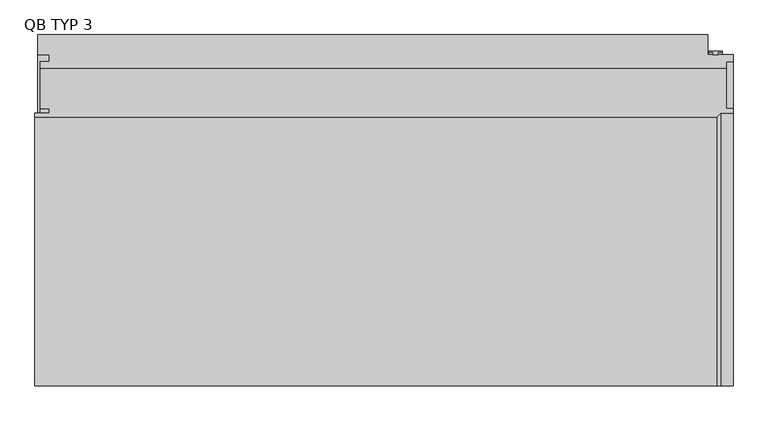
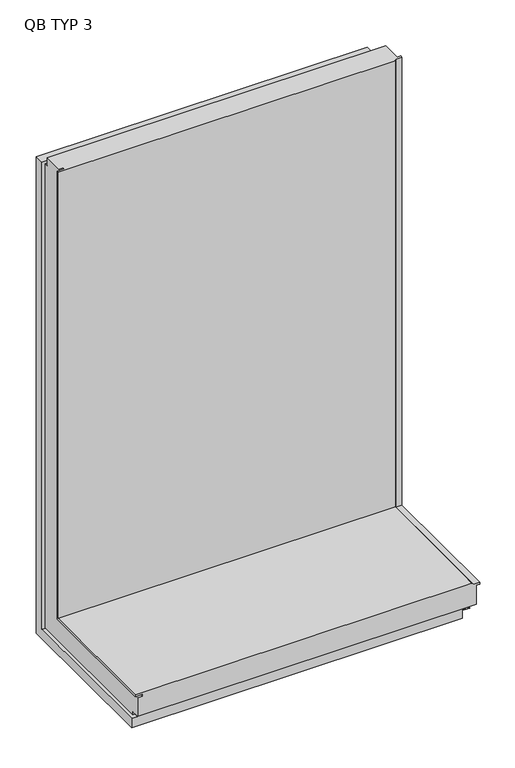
"""IFC4 building model written with IfcOpenShell, lengths in millimetres: plate geometry, TR_C_V_QBISS_Corner_Tr : QB TYP 3."""

from ifc_helpers import new_model, si_unit, origin, place, context, project, spatial, faceted_brep, source, transform, mapped, element, save


def qb_typ_3_0e3169c6(model_context):
    return source(origin(), model_context, "Body", "Brep", [
        faceted_brep([(494.5, -24.0, 1487.3), (474.5, -24.0, 1487.3), (474.5, -25.4998317, 1487.3), (481.3023028, -25.4998317, 1487.3), (481.3023028, -27.9998293, 1487.3), (480.5023028, -27.9998293, 1487.3), (480.5023028, -28.7998428, 1487.3), (488.5023593, -28.7998428, 1487.3), (488.5023593, -27.9998293, 1487.3), (487.7023593, -27.9998293, 1487.3), (487.7023593, -25.4998317, 1487.3), (494.5, -25.4998317, 1487.3), (494.5, -25.4998317, 25.4998317), (494.5, -487.3, 25.4998317), (494.5, -487.3, 24.0), (494.5, -24.0, 24.0), (487.7023593, -25.4998317, 25.4998317), (487.7023593, -27.9998293, 27.9998293), (487.7023593, -487.3, 27.9998293), (487.7023593, -487.3, 25.4998317), (488.5023593, -27.9998293, 27.9998293), (488.5023593, -28.7998428, 28.7998428), (488.5023593, -487.3, 28.7998428), (488.5023593, -487.3, 27.9998293), (480.5023028, -28.7998428, 28.7998428), (480.5023028, -27.9998293, 27.9998293), (480.5023028, -487.3, 27.9998293), (480.5023028, -487.3, 28.7998428), (481.3023028, -27.9998293, 27.9998293), (481.3023028, -25.4998317, 25.4998317), (481.3023028, -487.3, 25.4998317), (481.3023028, -487.3, 27.9998293), (474.5, -25.4998317, 25.4998317), (474.5, -24.0, 24.0), (474.5, -487.3, 24.0), (474.5, -487.3, 25.4998317)], [[[0, 1, 2, 3, 4, 5, 6, 7, 8, 9, 10, 11]], [[0, 11, 12, 13, 14, 15]], [[11, 10, 16, 12]], [[10, 9, 17, 18, 19, 16]], [[9, 8, 20, 17]], [[8, 7, 21, 22, 23, 20]], [[7, 6, 24, 21]], [[6, 5, 25, 26, 27, 24]], [[5, 4, 28, 25]], [[4, 3, 29, 30, 31, 28]], [[3, 2, 32, 29]], [[2, 1, 33, 34, 35, 32]], [[1, 0, 15, 33]], [[14, 13, 19, 18, 23, 22, 27, 26, 31, 30, 35, 34]], [[12, 16, 19, 13]], [[17, 20, 23, 18]], [[21, 24, 27, 22]], [[25, 28, 31, 26]], [[29, 32, 35, 30]], [[33, 15, 14, 34]]]),
        faceted_brep([(500.0, -49.0, 1487.3), (-500.0, -49.0, 1487.3), (-500.0, -49.0, 1512.4), (500.0, -49.0, 1512.4), (500.0, -39.0, 1487.3), (510.0, -39.0, 1487.3), (510.0, -29.0, 1487.3), (473.0, -29.0, 1487.3), (473.0, 0.0, 1487.3), (-504.0, 0.0, 1487.3), (-504.0, -29.0, 1487.3), (-487.0, -29.0, 1487.3), (-487.0, -39.0, 1487.3), (-500.0, -39.0, 1487.3), (-500.0, -108.0, 1512.4), (-487.0, -108.0, 1512.4), (-487.0, -114.0, 1512.4), (-508.0, -114.0, 1512.4), (-508.0, -120.0, 1512.4), (486.0, -120.0, 1512.4), (492.0, -114.0, 1512.4), (510.0, -114.0, 1512.4), (510.0, -108.0, 1512.4), (500.0, -108.0, 1512.4), (510.0, -39.0, 39.0), (510.0, -487.3, 39.0), (510.0, -487.3, 29.0), (510.0, -29.0, 29.0), (473.0, -29.0, 29.0), (473.0, -487.3, 29.0), (473.0, -487.3, 0.0), (473.0, 0.0, 0.0), (-504.0, 0.0, 0.0), (-504.0, -487.3, 0.0), (-504.0, -487.3, 29.0), (-504.0, -29.0, 29.0), (-487.0, -29.0, 29.0), (-487.0, -487.3, 29.0), (-487.0, -487.3, 39.0), (-487.0, -39.0, 39.0), (-500.0, -39.0, 39.0), (-500.0, -512.4, 108.0), (-500.0, -108.0, 108.0), (-500.0, -487.3, 39.0), (-500.0, -487.3, 49.0), (-500.0, -512.4, 49.0), (-487.0, -108.0, 108.0), (-487.0, -512.4, 108.0), (-487.0, -512.4, 114.0), (-487.0, -114.0, 114.0), (-508.0, -114.0, 114.0), (-508.0, -512.4, 114.0), (-508.0, -512.4, 120.0), (-508.0, -120.0, 120.0), (486.0, -120.0, 120.0), (492.0, -114.0, 114.0), (510.0, -114.0, 114.0), (510.0, -512.4, 114.0), (510.0, -512.4, 108.0), (510.0, -108.0, 108.0), (500.0, -108.0, 108.0), (500.0, -512.4, 108.0), (500.0, -512.4, 49.0), (500.0, -487.3, 49.0), (500.0, -487.3, 39.0), (500.0, -39.0, 39.0), (492.0, -512.4, 114.0), (486.0, -512.4, 120.0)], [[[0, 1, 2, 3]], [[1, 0, 4, 5, 6, 7, 8, 9, 10, 11, 12, 13]], [[14, 15, 16, 17, 18, 19, 20, 21, 22, 23, 3, 2]], [[5, 24, 25, 26, 27, 6]], [[27, 28, 7, 6]], [[7, 28, 29, 30, 31, 8]], [[31, 32, 9, 8]], [[9, 32, 33, 34, 35, 10]], [[35, 36, 11, 10]], [[11, 36, 37, 38, 39, 12]], [[39, 40, 13, 12]], [[41, 42, 14, 2, 1, 13, 40, 43, 44, 45]], [[15, 14, 42, 46]], [[16, 15, 46, 47, 48, 49]], [[17, 16, 49, 50]], [[18, 17, 50, 51, 52, 53]], [[19, 18, 53, 54]], [[20, 19, 54, 55]], [[21, 20, 55, 56]], [[22, 21, 56, 57, 58, 59]], [[23, 22, 59, 60]], [[23, 60, 61, 62, 63, 64, 65, 4, 0, 3]], [[65, 24, 5, 4]], [[48, 47, 41, 45, 62, 61, 58, 57, 66, 67, 52, 51]], [[28, 27, 26, 29]], [[32, 31, 30, 33]], [[36, 35, 34, 37]], [[40, 39, 38, 43]], [[42, 41, 47, 46]], [[49, 48, 51, 50]], [[53, 52, 67, 54]], [[55, 54, 67, 66]], [[56, 55, 66, 57]], [[59, 58, 61, 60]], [[24, 65, 64, 25]], [[63, 44, 43, 38, 37, 34, 33, 30, 29, 26, 25, 64]], [[44, 63, 62, 45]]]),
    ])


if __name__ == "__main__":
    model = new_model("IFC4")
    model_context = context("Model", 3, world=origin())
    ifc_project = project(units=[si_unit("LENGTHUNIT", "METRE", prefix="MILLI")], contexts=[model_context])
    site = spatial("IfcSite", under=ifc_project)
    building = spatial("IfcBuilding", under=site)
    placement = place(None, origin())
    qb_typ_3_shape = qb_typ_3_0e3169c6(model_context)
    element("IfcPlate", 1, ObjectType="TR_C_V_QBISS_Corner_Tr : QB TYP 3", at=placement, inside=building, context=model_context, shape_type="MappedRepresentation", body=[
        mapped(qb_typ_3_shape, transform((0.0, 0.0, 0.0), x_axis=(1.0, 0.0, 0.0), y_axis=(0.0, 1.0, 0.0), z_axis=(0.0, 0.0, 1.0))),
    ])
    save(model, "model.ifc")
